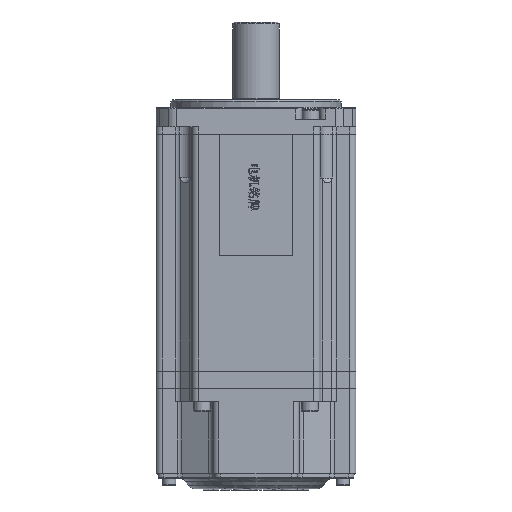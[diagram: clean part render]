
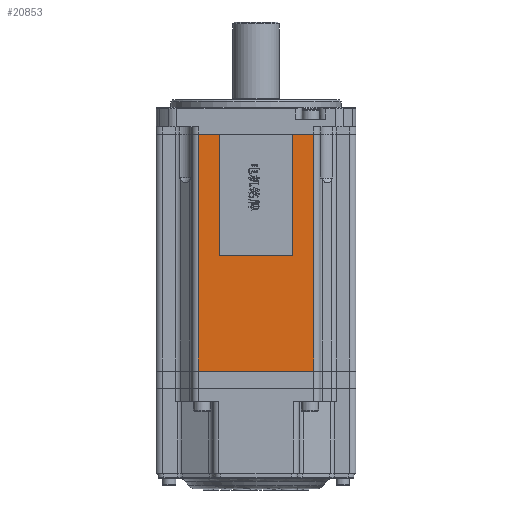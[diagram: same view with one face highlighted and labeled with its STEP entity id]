
A CAD part, front view. The second image highlights one B-rep face of the part: STEP entity #20853.
In plain terms, the highlighted planar face has unit normal (0, -1, 0).
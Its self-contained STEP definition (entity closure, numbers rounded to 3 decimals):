
#15 = VECTOR ( 'NONE', #47340, 1000. ) ;
#507 = ORIENTED_EDGE ( 'NONE', *, *, #78385, .T. ) ;
#4319 = EDGE_CURVE ( 'NONE', #66785, #62465, #34790, .T. ) ;
#4738 = VERTEX_POINT ( 'NONE', #44415 ) ;
#6096 = FACE_OUTER_BOUND ( 'NONE', #35325, .T. ) ;
#7452 = DIRECTION ( 'NONE',  ( 0., 1., 0. ) ) ;
#7522 = EDGE_CURVE ( 'NONE', #46883, #14995, #10031, .T. ) ;
#10031 = LINE ( 'NONE', #72745, #57628 ) ;
#10726 = ORIENTED_EDGE ( 'NONE', *, *, #4319, .F. ) ;
#11228 = CARTESIAN_POINT ( 'NONE',  ( -198.803, -41., 97.2 ) ) ;
#13424 = VECTOR ( 'NONE', #23245, 1000. ) ;
#13482 = CARTESIAN_POINT ( 'NONE',  ( -23.75, -41., 1000. ) ) ;
#14995 = VERTEX_POINT ( 'NONE', #44776 ) ;
#16298 = CARTESIAN_POINT ( 'NONE',  ( 23.75, -41., 0. ) ) ;
#16385 = DIRECTION ( 'NONE',  ( 1., 0., 0. ) ) ;
#16437 = CARTESIAN_POINT ( 'NONE',  ( 23.75, -41., 1000. ) ) ;
#20853 = ADVANCED_FACE ( 'NONE', ( #6096 ), #50079, .F. ) ;
#23245 = DIRECTION ( 'NONE',  ( 0., 0., -1. ) ) ;
#23913 = CARTESIAN_POINT ( 'NONE',  ( -23.75, -41., 1000. ) ) ;
#24291 = DIRECTION ( 'NONE',  ( -1., 0., 0. ) ) ;
#25658 = CARTESIAN_POINT ( 'NONE',  ( 23.75, -41., 97.2 ) ) ;
#25918 = LINE ( 'NONE', #44959, #30821 ) ;
#28433 = ORIENTED_EDGE ( 'NONE', *, *, #68690, .F. ) ;
#30821 = VECTOR ( 'NONE', #32237, 1000. ) ;
#31293 = LINE ( 'NONE', #69506, #74903 ) ;
#32237 = DIRECTION ( 'NONE',  ( 1., 0., 0. ) ) ;
#32655 = DIRECTION ( 'NONE',  ( 0., 0., 1. ) ) ;
#34581 = EDGE_CURVE ( 'NONE', #14995, #65459, #25918, .T. ) ;
#34790 = LINE ( 'NONE', #16437, #13424 ) ;
#35325 = EDGE_LOOP ( 'NONE', ( #67773, #28433, #47870, #77471, #39359, #507, #61744, #10726 ) ) ;
#35626 = DIRECTION ( 'NONE',  ( 0., 0., -1. ) ) ;
#36433 = LINE ( 'NONE', #23913, #52886 ) ;
#39359 = ORIENTED_EDGE ( 'NONE', *, *, #75469, .T. ) ;
#39660 = EDGE_CURVE ( 'NONE', #66785, #53558, #60227, .T. ) ;
#41428 = CARTESIAN_POINT ( 'NONE',  ( 15., -41., 97.2 ) ) ;
#44414 = AXIS2_PLACEMENT_3D ( 'NONE', #13482, #7452, #75584 ) ;
#44415 = CARTESIAN_POINT ( 'NONE',  ( -23.75, -41., 0. ) ) ;
#44776 = CARTESIAN_POINT ( 'NONE',  ( -15., -41., 47.2 ) ) ;
#44959 = CARTESIAN_POINT ( 'NONE',  ( -15., -41., 47.2 ) ) ;
#46883 = VERTEX_POINT ( 'NONE', #68130 ) ;
#47340 = DIRECTION ( 'NONE',  ( -1., 0., 0. ) ) ;
#47870 = ORIENTED_EDGE ( 'NONE', *, *, #34581, .F. ) ;
#50079 = PLANE ( 'NONE',  #44414 ) ;
#52886 = VECTOR ( 'NONE', #79214, 1000. ) ;
#53008 = CARTESIAN_POINT ( 'NONE',  ( 15., -41., 47.2 ) ) ;
#53558 = VERTEX_POINT ( 'NONE', #41428 ) ;
#54257 = VERTEX_POINT ( 'NONE', #56711 ) ;
#56711 = CARTESIAN_POINT ( 'NONE',  ( -23.75, -41., 97.2 ) ) ;
#57628 = VECTOR ( 'NONE', #35626, 1000. ) ;
#60227 = LINE ( 'NONE', #71768, #15 ) ;
#61744 = ORIENTED_EDGE ( 'NONE', *, *, #70744, .T. ) ;
#62465 = VERTEX_POINT ( 'NONE', #16298 ) ;
#63095 = LINE ( 'NONE', #11228, #64101 ) ;
#64101 = VECTOR ( 'NONE', #24291, 1000. ) ;
#64953 = VECTOR ( 'NONE', #16385, 1000. ) ;
#65459 = VERTEX_POINT ( 'NONE', #53008 ) ;
#65766 = CARTESIAN_POINT ( 'NONE',  ( -23.75, -41., 0. ) ) ;
#66785 = VERTEX_POINT ( 'NONE', #25658 ) ;
#67773 = ORIENTED_EDGE ( 'NONE', *, *, #39660, .T. ) ;
#68130 = CARTESIAN_POINT ( 'NONE',  ( -15., -41., 97.2 ) ) ;
#68690 = EDGE_CURVE ( 'NONE', #65459, #53558, #31293, .T. ) ;
#69506 = CARTESIAN_POINT ( 'NONE',  ( 15., -41., 47.2 ) ) ;
#70744 = EDGE_CURVE ( 'NONE', #4738, #62465, #75625, .T. ) ;
#71768 = CARTESIAN_POINT ( 'NONE',  ( -198.803, -41., 97.2 ) ) ;
#72745 = CARTESIAN_POINT ( 'NONE',  ( -15., -41., 47.2 ) ) ;
#74903 = VECTOR ( 'NONE', #32655, 1000. ) ;
#75469 = EDGE_CURVE ( 'NONE', #46883, #54257, #63095, .T. ) ;
#75584 = DIRECTION ( 'NONE',  ( 0., 0., 1. ) ) ;
#75625 = LINE ( 'NONE', #65766, #64953 ) ;
#77471 = ORIENTED_EDGE ( 'NONE', *, *, #7522, .F. ) ;
#78385 = EDGE_CURVE ( 'NONE', #54257, #4738, #36433, .T. ) ;
#79214 = DIRECTION ( 'NONE',  ( 0., 0., -1. ) ) ;
